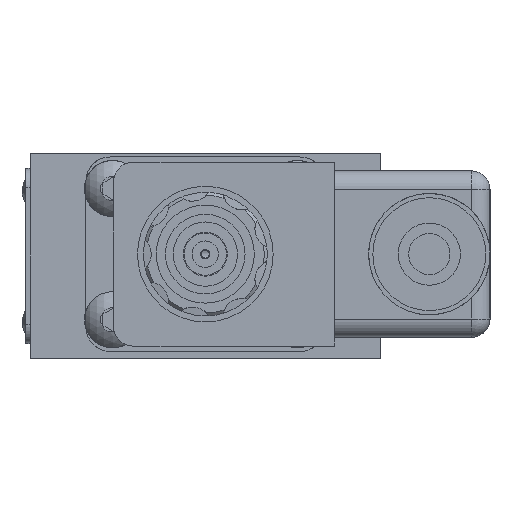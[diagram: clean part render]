
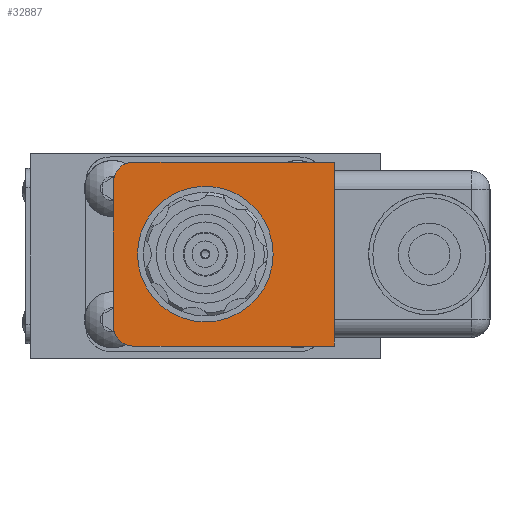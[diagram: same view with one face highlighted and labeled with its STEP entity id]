
A CAD part, left-side view. The second image highlights one B-rep face of the part: STEP entity #32887.
In plain terms, the highlighted planar face has unit normal (-1, 0, 0).
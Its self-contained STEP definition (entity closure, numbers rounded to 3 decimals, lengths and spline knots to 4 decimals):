
#1024=FACE_BOUND('',#4215,.T.);
#1316=PLANE('',#34997);
#2206=FACE_OUTER_BOUND('',#4214,.T.);
#4214=EDGE_LOOP('',(#20890,#20891,#20892,#20893,#20894,#20895));
#4215=EDGE_LOOP('',(#20896));
#6492=LINE('',#49211,#8762);
#6495=LINE('',#49219,#8765);
#6496=LINE('',#49222,#8766);
#6498=LINE('',#49225,#8768);
#8762=VECTOR('',#39064,1.);
#8765=VECTOR('',#39073,1.);
#8766=VECTOR('',#39076,1.);
#8768=VECTOR('',#39080,1.);
#11025=CIRCLE('',#34979,1.1075);
#11032=CIRCLE('',#34991,0.3175);
#11033=CIRCLE('',#34994,0.3175);
#13035=VERTEX_POINT('',#49183);
#13040=VERTEX_POINT('',#49203);
#13041=VERTEX_POINT('',#49205);
#13042=VERTEX_POINT('',#49209);
#13043=VERTEX_POINT('',#49213);
#13044=VERTEX_POINT('',#49217);
#13045=VERTEX_POINT('',#49221);
#16070=EDGE_CURVE('',#13035,#13035,#11025,.T.);
#16081=EDGE_CURVE('',#13040,#13041,#11032,.T.);
#16084=EDGE_CURVE('',#13042,#13040,#6492,.T.);
#16085=EDGE_CURVE('',#13043,#13042,#11033,.T.);
#16088=EDGE_CURVE('',#13043,#13044,#6495,.T.);
#16089=EDGE_CURVE('',#13041,#13045,#6496,.T.);
#16091=EDGE_CURVE('',#13044,#13045,#6498,.T.);
#20890=ORIENTED_EDGE('',*,*,#16081,.F.);
#20891=ORIENTED_EDGE('',*,*,#16084,.F.);
#20892=ORIENTED_EDGE('',*,*,#16085,.F.);
#20893=ORIENTED_EDGE('',*,*,#16088,.T.);
#20894=ORIENTED_EDGE('',*,*,#16091,.T.);
#20895=ORIENTED_EDGE('',*,*,#16089,.F.);
#20896=ORIENTED_EDGE('',*,*,#16070,.T.);
#32887=ADVANCED_FACE('',(#2206,#1024),#1316,.T.);
#34979=AXIS2_PLACEMENT_3D('',#49184,#39030,#39031);
#34991=AXIS2_PLACEMENT_3D('',#49206,#39058,#39059);
#34994=AXIS2_PLACEMENT_3D('',#49214,#39067,#39068);
#34997=AXIS2_PLACEMENT_3D('',#49224,#39078,#39079);
#39030=DIRECTION('center_axis',(1.,0.,0.));
#39031=DIRECTION('ref_axis',(0.,1.,0.));
#39058=DIRECTION('center_axis',(1.,0.,0.));
#39059=DIRECTION('ref_axis',(0.,0.707,0.707));
#39064=DIRECTION('',(0.,0.,1.));
#39067=DIRECTION('center_axis',(1.,0.,0.));
#39068=DIRECTION('ref_axis',(0.,0.707,-0.707));
#39073=DIRECTION('',(0.,-1.,0.));
#39076=DIRECTION('',(0.,-1.,0.));
#39078=DIRECTION('center_axis',(-1.,0.,0.));
#39079=DIRECTION('ref_axis',(0.,-1.,0.));
#39080=DIRECTION('',(0.,0.,1.));
#49183=CARTESIAN_POINT('',(-10.0391,-1.1075,0.0305));
#49184=CARTESIAN_POINT('Origin',(-10.0391,0.,0.0305));
#49203=CARTESIAN_POINT('',(-10.0391,1.4986,1.213));
#49205=CARTESIAN_POINT('',(-10.0391,1.1811,1.5305));
#49206=CARTESIAN_POINT('Origin',(-10.0391,1.1811,1.213));
#49209=CARTESIAN_POINT('',(-10.0391,1.4986,-1.152));
#49211=CARTESIAN_POINT('',(-10.0391,1.4986,-1.4695));
#49213=CARTESIAN_POINT('',(-10.0391,1.1811,-1.4695));
#49214=CARTESIAN_POINT('Origin',(-10.0391,1.1811,-1.152));
#49217=CARTESIAN_POINT('',(-10.0391,-2.1082,-1.4695));
#49219=CARTESIAN_POINT('',(-10.0391,1.4986,-1.4695));
#49221=CARTESIAN_POINT('',(-10.0391,-2.1082,1.5305));
#49222=CARTESIAN_POINT('',(-10.0391,1.4986,1.5305));
#49224=CARTESIAN_POINT('Origin',(-10.0391,1.4986,-1.4695));
#49225=CARTESIAN_POINT('',(-10.0391,-2.1082,-1.4695));
